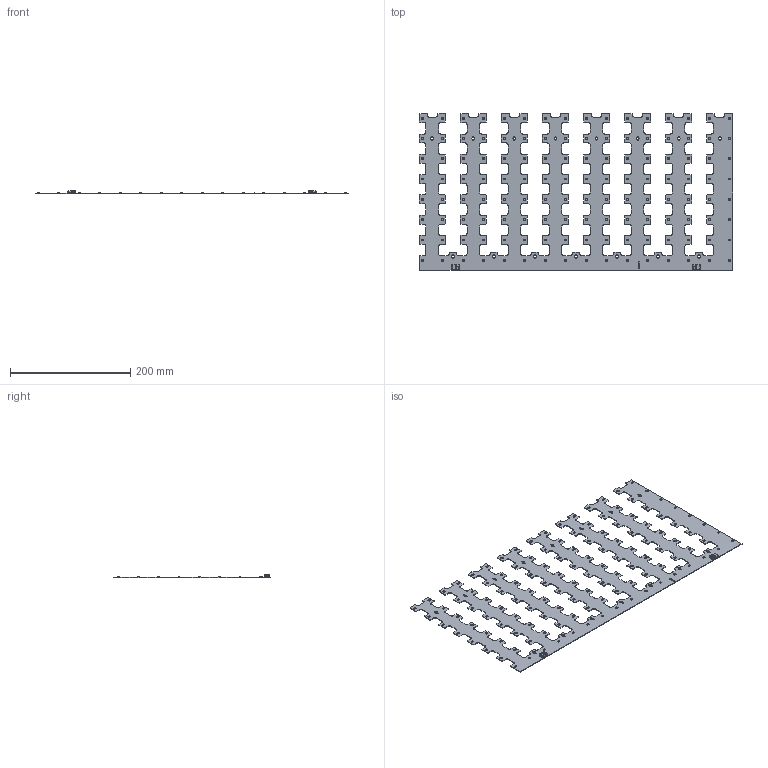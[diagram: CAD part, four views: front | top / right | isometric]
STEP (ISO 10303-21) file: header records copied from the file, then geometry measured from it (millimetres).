
FILE_DESCRIPTION(/* description */ (''),/* implementation_level */ '2;1');
FILE_NAME(/* name */ 'C:\Data\Vault\LE-TPD\4422 964 60760_SB Fortimo LED Square 2500lm HV LV Gen4\Fortimo LED Square-DS SMF HV LV4 2024-08-19.stp',/* time_stamp */ '2024-08-20T09:22:08+02:00',/* author */ ('plr05507'),/* organization */ (''),/* preprocessor_version */ 'ST-DEVELOPER v18.1',/* originating_system */ 'Autodesk Inventor 2022',/* authorisation */ '');
FILE_SCHEMA (('AUTOMOTIVE_DESIGN { 1 0 10303 214 3 1 1 }'));
Products named in the file (1): 4422-964-60760_Simplify_1
Bounding box: 520.5 x 260 x 5.5 mm (x, y, z)
Volume: 73325.6 mm3; surface area: 154338 mm2
Topology: 1 solids, 1 shells, 8103 faces, 23878 edges, 15916 vertices
Faces by surface type: plane 6845, cylinder 1251, sphere 7
Full cylindrical faces by diameter (mm): 2.25 x4, 3 x3
Entity records: 275550 total; most frequent: CARTESIAN_POINT 48081, ORIENTED_EDGE 47750, DIRECTION 42595, EDGE_CURVE 23875, LINE 21311, VECTOR 21311, VERTEX_POINT 15916, AXIS2_PLACEMENT_3D 10642
